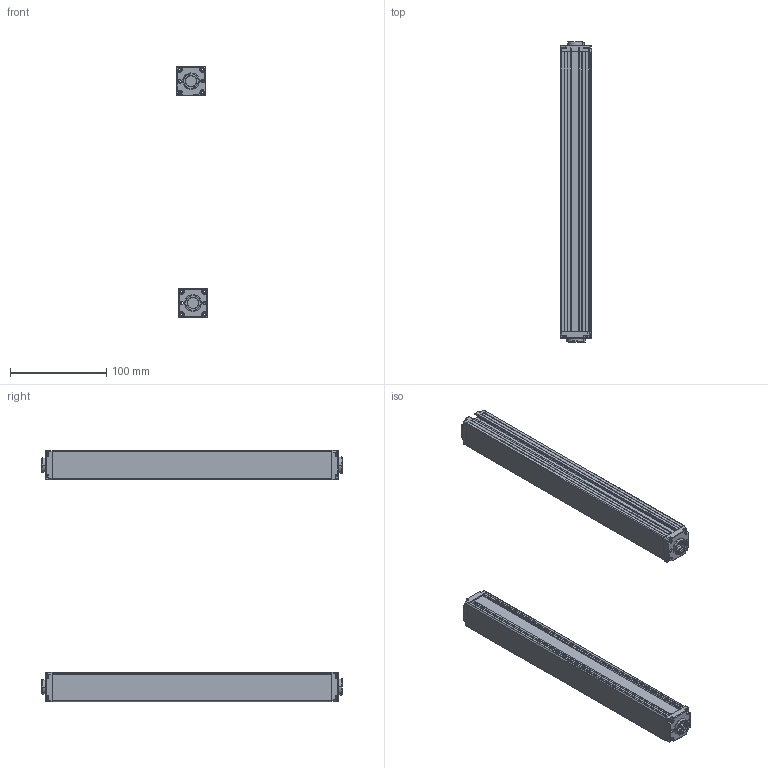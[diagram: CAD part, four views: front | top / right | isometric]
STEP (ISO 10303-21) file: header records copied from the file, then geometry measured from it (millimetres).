
FILE_DESCRIPTION (( 'STEP AP203' ), '1' );
FILE_NAME ('ZDA1420-290.STEP', '2022-08-30T07:27:48', ( 'Windows 蚚誧' ), ( 'Organization' ), 'SwSTEP 2.0', 'SolidWorks 2020', '' );
FILE_SCHEMA (( 'CONFIG_CONTROL_DESIGN' ));
Length unit declared in the file: millimetre
Products named in the file (5): 錨璃8; 錨璃10; 錨璃8 - 萵掛 (2); ZDA1420-290; 錨璃1
Assembly tree (8 placements, depth 2):
  ZDA1420-290
    錨璃1  x2
    錨璃8  x2
    錨璃8 - 萵掛 (2)  x2
    錨璃10  x2
Bounding box: 32.36 x 311.4 x 260.35 mm (x, y, z)
Volume: 192422 mm3; surface area: 205966.4 mm2
Topology: 8 solids, 8 shells, 1032 faces, 2690 edges, 1668 vertices
Faces by surface type: plane 464, cylinder 310, cone 120, bspline 58, torus 48, sphere 32
Entity records: 17901 total; most frequent: CARTESIAN_POINT 4731, ORIENTED_EDGE 2666, DIRECTION 2616, EDGE_CURVE 1333, AXIS2_PLACEMENT_3D 894, VERTEX_POINT 834, VECTOR 828, LINE 828
